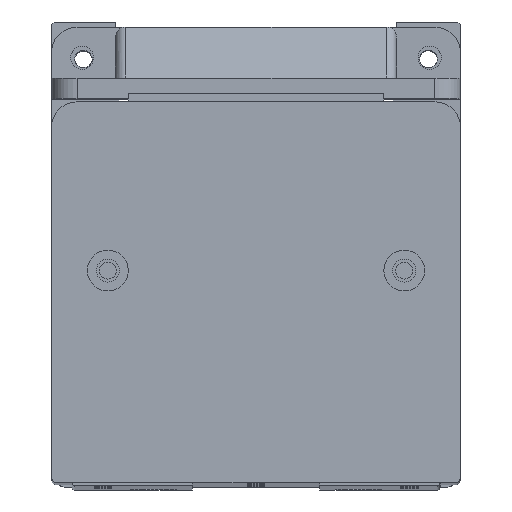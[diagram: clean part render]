
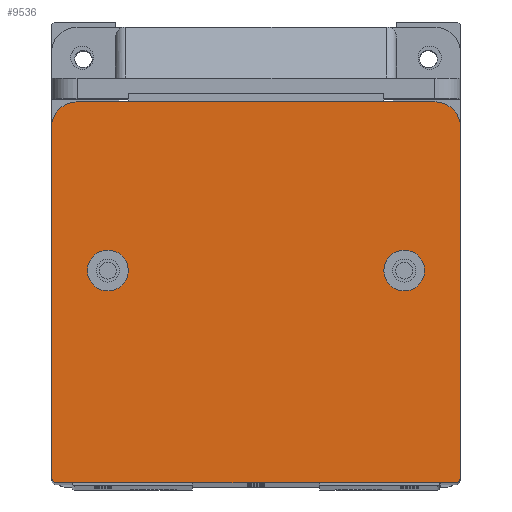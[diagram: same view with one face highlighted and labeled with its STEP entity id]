
A CAD part, top view. The second image highlights one B-rep face of the part: STEP entity #9536.
In plain terms, the highlighted planar face has unit normal (0, 0, 1).
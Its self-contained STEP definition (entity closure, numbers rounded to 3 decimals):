
#586 = DIRECTION ( 'NONE',  ( 0., 0., 1. ) ) ;
#941 = CARTESIAN_POINT ( 'NONE',  ( 1., 1., 10. ) ) ;
#943 = VERTEX_POINT ( 'NONE', #7573 ) ;
#1399 = AXIS2_PLACEMENT_3D ( 'NONE', #9103, #3764, #7126 ) ;
#2011 = DIRECTION ( 'NONE',  ( 1., 0., 0. ) ) ;
#2256 = CARTESIAN_POINT ( 'NONE',  ( 69., 41.5, 10. ) ) ;
#2573 = VERTEX_POINT ( 'NONE', #6404 ) ;
#2722 = CARTESIAN_POINT ( 'NONE',  ( 7., 41.5, 10. ) ) ;
#3223 = EDGE_CURVE ( 'NONE', #21086, #16530, #21141, .T. ) ;
#3755 = VERTEX_POINT ( 'NONE', #5432 ) ;
#3764 = DIRECTION ( 'NONE',  ( 0., 0., 1. ) ) ;
#3844 = DIRECTION ( 'NONE',  ( 0., -1., 0. ) ) ;
#3847 = EDGE_CURVE ( 'NONE', #20520, #17247, #10087, .T. ) ;
#3961 = AXIS2_PLACEMENT_3D ( 'NONE', #11459, #5909, #22879 ) ;
#4681 = FACE_BOUND ( 'NONE', #13375, .T. ) ;
#4982 = EDGE_CURVE ( 'NONE', #6228, #2573, #19905, .T. ) ;
#5049 = VECTOR ( 'NONE', #3844, 1000. ) ;
#5249 = CIRCLE ( 'NONE', #15601, 1. ) ;
#5335 = ORIENTED_EDGE ( 'NONE', *, *, #12318, .F. ) ;
#5432 = CARTESIAN_POINT ( 'NONE',  ( 1., 0., 10. ) ) ;
#5439 = CARTESIAN_POINT ( 'NONE',  ( 73., 41.5, 10. ) ) ;
#5909 = DIRECTION ( 'NONE',  ( 0., 0., 1. ) ) ;
#6228 = VERTEX_POINT ( 'NONE', #14293 ) ;
#6343 = CIRCLE ( 'NONE', #7025, 4. ) ;
#6404 = CARTESIAN_POINT ( 'NONE',  ( 0., 1., 10. ) ) ;
#7025 = AXIS2_PLACEMENT_3D ( 'NONE', #2256, #19200, #22589 ) ;
#7126 = DIRECTION ( 'NONE',  ( 1., 0., 0. ) ) ;
#7217 = ORIENTED_EDGE ( 'NONE', *, *, #11295, .F. ) ;
#7284 = LINE ( 'NONE', #21885, #16582 ) ;
#7573 = CARTESIAN_POINT ( 'NONE',  ( 65., 41.5, 10. ) ) ;
#7865 = ORIENTED_EDGE ( 'NONE', *, *, #18146, .T. ) ;
#7876 = EDGE_CURVE ( 'NONE', #17443, #6228, #14090, .T. ) ;
#8098 = EDGE_LOOP ( 'NONE', ( #7217, #5335 ) ) ;
#8130 = DIRECTION ( 'NONE',  ( 0., 0., 1. ) ) ;
#8331 = DIRECTION ( 'NONE',  ( -1., 0., 0. ) ) ;
#8763 = CARTESIAN_POINT ( 'NONE',  ( 11., 41.5, 10. ) ) ;
#8979 = AXIS2_PLACEMENT_3D ( 'NONE', #10935, #12906, #20034 ) ;
#9103 = CARTESIAN_POINT ( 'NONE',  ( 69., 41.5, 10. ) ) ;
#9536 = ADVANCED_FACE ( 'NONE', ( #18116, #4681, #13167 ), #17838, .F. ) ;
#10087 = CIRCLE ( 'NONE', #11932, 4. ) ;
#10556 = VECTOR ( 'NONE', #16872, 1000. ) ;
#10687 = VERTEX_POINT ( 'NONE', #22156 ) ;
#10781 = LINE ( 'NONE', #12036, #16011 ) ;
#10935 = CARTESIAN_POINT ( 'NONE',  ( 79., 1., 10. ) ) ;
#11126 = ORIENTED_EDGE ( 'NONE', *, *, #12463, .T. ) ;
#11295 = EDGE_CURVE ( 'NONE', #19774, #943, #6343, .T. ) ;
#11459 = CARTESIAN_POINT ( 'NONE',  ( 5., 69.5, 10. ) ) ;
#11716 = DIRECTION ( 'NONE',  ( -1., 0., 0. ) ) ;
#11932 = AXIS2_PLACEMENT_3D ( 'NONE', #13194, #13343, #2011 ) ;
#12014 = LINE ( 'NONE', #13225, #10556 ) ;
#12036 = CARTESIAN_POINT ( 'NONE',  ( 0., 74.5, 10. ) ) ;
#12048 = AXIS2_PLACEMENT_3D ( 'NONE', #8763, #18164, #12251 ) ;
#12251 = DIRECTION ( 'NONE',  ( 1., 0., 0. ) ) ;
#12318 = EDGE_CURVE ( 'NONE', #943, #19774, #18122, .T. ) ;
#12399 = DIRECTION ( 'NONE',  ( 0., 0., -1. ) ) ;
#12463 = EDGE_CURVE ( 'NONE', #3755, #21086, #12014, .T. ) ;
#12906 = DIRECTION ( 'NONE',  ( 0., 0., 1. ) ) ;
#13109 = ORIENTED_EDGE ( 'NONE', *, *, #18369, .T. ) ;
#13119 = CIRCLE ( 'NONE', #18103, 5. ) ;
#13167 = FACE_OUTER_BOUND ( 'NONE', #14764, .T. ) ;
#13194 = CARTESIAN_POINT ( 'NONE',  ( 11., 41.5, 10. ) ) ;
#13225 = CARTESIAN_POINT ( 'NONE',  ( 0., 0., 10. ) ) ;
#13343 = DIRECTION ( 'NONE',  ( 0., 0., 1. ) ) ;
#13375 = EDGE_LOOP ( 'NONE', ( #15103, #18743 ) ) ;
#13983 = DIRECTION ( 'NONE',  ( -1., 0., 0. ) ) ;
#14090 = CIRCLE ( 'NONE', #3961, 5. ) ;
#14216 = EDGE_CURVE ( 'NONE', #10687, #17443, #10781, .T. ) ;
#14293 = CARTESIAN_POINT ( 'NONE',  ( 0., 69.5, 10. ) ) ;
#14763 = CARTESIAN_POINT ( 'NONE',  ( 80., 69.5, 10. ) ) ;
#14764 = EDGE_LOOP ( 'NONE', ( #19196, #7865, #11126, #21198, #24008, #13109, #21733, #17311 ) ) ;
#15103 = ORIENTED_EDGE ( 'NONE', *, *, #3847, .F. ) ;
#15179 = CARTESIAN_POINT ( 'NONE',  ( 75., 69.5, 10. ) ) ;
#15601 = AXIS2_PLACEMENT_3D ( 'NONE', #941, #8130, #13983 ) ;
#15973 = CIRCLE ( 'NONE', #12048, 4. ) ;
#16011 = VECTOR ( 'NONE', #11716, 1000. ) ;
#16520 = DIRECTION ( 'NONE',  ( 0., 1., 0. ) ) ;
#16530 = VERTEX_POINT ( 'NONE', #17817 ) ;
#16582 = VECTOR ( 'NONE', #16520, 1000. ) ;
#16872 = DIRECTION ( 'NONE',  ( 1., 0., 0. ) ) ;
#17247 = VERTEX_POINT ( 'NONE', #2722 ) ;
#17311 = ORIENTED_EDGE ( 'NONE', *, *, #7876, .T. ) ;
#17443 = VERTEX_POINT ( 'NONE', #18981 ) ;
#17817 = CARTESIAN_POINT ( 'NONE',  ( 80., 1., 10. ) ) ;
#17838 = PLANE ( 'NONE',  #20677 ) ;
#18103 = AXIS2_PLACEMENT_3D ( 'NONE', #15179, #586, #20903 ) ;
#18116 = FACE_BOUND ( 'NONE', #8098, .T. ) ;
#18122 = CIRCLE ( 'NONE', #1399, 4. ) ;
#18146 = EDGE_CURVE ( 'NONE', #2573, #3755, #5249, .T. ) ;
#18164 = DIRECTION ( 'NONE',  ( 0., 0., 1. ) ) ;
#18369 = EDGE_CURVE ( 'NONE', #22887, #10687, #13119, .T. ) ;
#18743 = ORIENTED_EDGE ( 'NONE', *, *, #19595, .F. ) ;
#18765 = EDGE_CURVE ( 'NONE', #16530, #22887, #7284, .T. ) ;
#18981 = CARTESIAN_POINT ( 'NONE',  ( 5., 74.5, 10. ) ) ;
#19084 = CARTESIAN_POINT ( 'NONE',  ( 15., 41.5, 10. ) ) ;
#19196 = ORIENTED_EDGE ( 'NONE', *, *, #4982, .T. ) ;
#19200 = DIRECTION ( 'NONE',  ( 0., 0., 1. ) ) ;
#19595 = EDGE_CURVE ( 'NONE', #17247, #20520, #15973, .T. ) ;
#19615 = CARTESIAN_POINT ( 'NONE',  ( 0., 0., 10. ) ) ;
#19774 = VERTEX_POINT ( 'NONE', #5439 ) ;
#19905 = LINE ( 'NONE', #22460, #5049 ) ;
#20034 = DIRECTION ( 'NONE',  ( -1., 0., 0. ) ) ;
#20520 = VERTEX_POINT ( 'NONE', #19084 ) ;
#20677 = AXIS2_PLACEMENT_3D ( 'NONE', #19615, #12399, #8331 ) ;
#20903 = DIRECTION ( 'NONE',  ( -1., 0., 0. ) ) ;
#21086 = VERTEX_POINT ( 'NONE', #22651 ) ;
#21141 = CIRCLE ( 'NONE', #8979, 1. ) ;
#21198 = ORIENTED_EDGE ( 'NONE', *, *, #3223, .T. ) ;
#21733 = ORIENTED_EDGE ( 'NONE', *, *, #14216, .T. ) ;
#21885 = CARTESIAN_POINT ( 'NONE',  ( 80., 0., 10. ) ) ;
#22156 = CARTESIAN_POINT ( 'NONE',  ( 75., 74.5, 10. ) ) ;
#22460 = CARTESIAN_POINT ( 'NONE',  ( 0., 0., 10. ) ) ;
#22589 = DIRECTION ( 'NONE',  ( 1., 0., 0. ) ) ;
#22651 = CARTESIAN_POINT ( 'NONE',  ( 79., 0., 10. ) ) ;
#22879 = DIRECTION ( 'NONE',  ( -1., 0., 0. ) ) ;
#22887 = VERTEX_POINT ( 'NONE', #14763 ) ;
#24008 = ORIENTED_EDGE ( 'NONE', *, *, #18765, .T. ) ;
